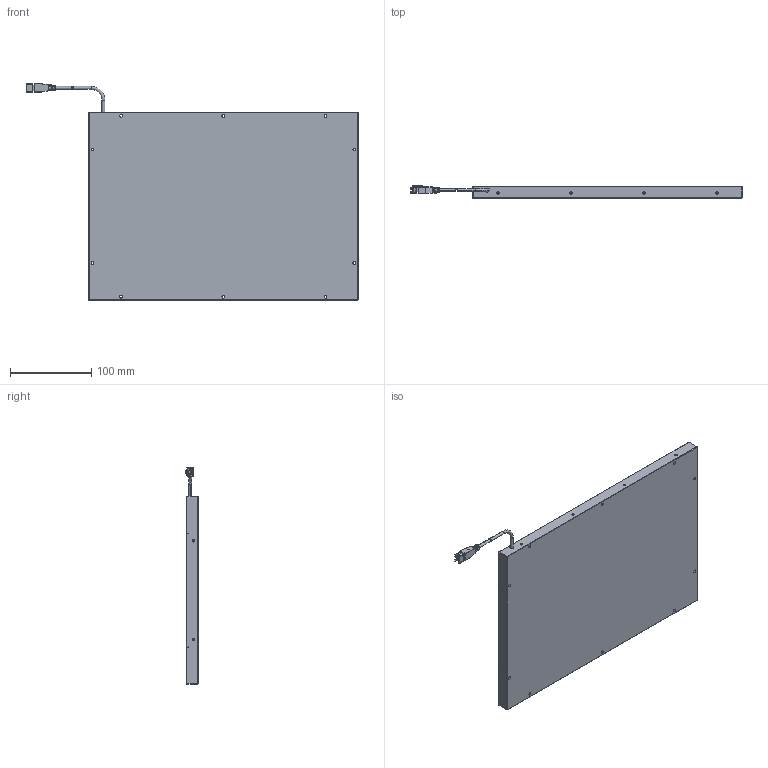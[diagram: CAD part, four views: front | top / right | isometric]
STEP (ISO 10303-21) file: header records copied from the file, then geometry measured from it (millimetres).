
FILE_DESCRIPTION((''),'2;1');
FILE_NAME('LS-LBFS-300-200','2019-09-19T',('LumaSpec Vision'),('LumaSpec Vision'),'PRO/ENGINEER BY PARAMETRIC TECHNOLOGY CORPORATION, 2010100','PRO/ENGINEER BY PARAMETRIC TECHNOLOGY CORPORATION, 2010100','');
FILE_SCHEMA(('CONFIG_CONTROL_DESIGN'));
Length unit declared in the file: millimetre
Products named in the file (5): ZHOUQUAN1__1; LINE_TOU__1; XIAN__1; ASSY__ASM_1_ASM; LS-LBFS-300-200_ASM
Assembly tree (4 placements, depth 3):
  LS-LBFS-300-200_ASM
    ZHOUQUAN1__1
    ASSY__ASM_1_ASM
      LINE_TOU__1
      XIAN__1
Bounding box: 409.43 x 15.15 x 267.25 mm (x, y, z)
Volume: 1038962.4 mm3; surface area: 176770.9 mm2
Topology: 3 solids, 15 shells, 402 faces, 1024 edges, 643 vertices
Faces by surface type: plane 184, cylinder 160, cone 31, torus 10, bspline 8, sphere 8, extrusion 1
Entity records: 12458 total; most frequent: CARTESIAN_POINT 2587, DIRECTION 2106, ORIENTED_EDGE 1936, EDGE_CURVE 992, AXIS2_PLACEMENT_3D 767, VERTEX_POINT 643, VECTOR 572, LINE 571
